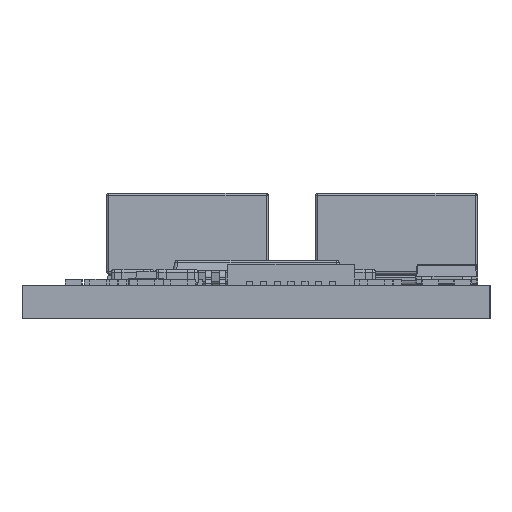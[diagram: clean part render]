
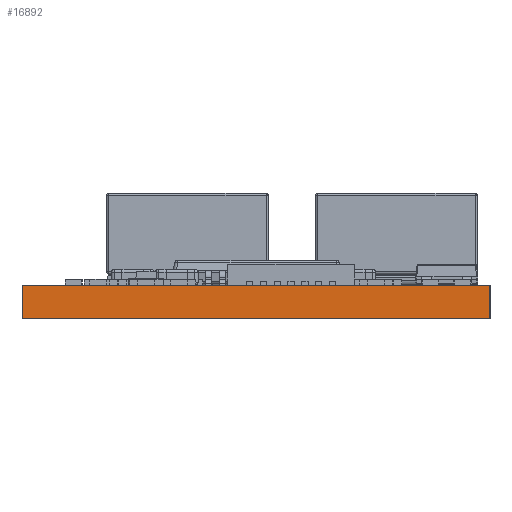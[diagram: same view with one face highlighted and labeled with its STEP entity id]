
A CAD part, left-side view. The second image highlights one B-rep face of the part: STEP entity #16892.
In plain terms, the highlighted planar face has unit normal (-1, 0, 0).
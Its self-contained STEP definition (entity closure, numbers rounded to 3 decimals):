
#259 = PLANE('',#260);
#260 = AXIS2_PLACEMENT_3D('',#261,#262,#263);
#261 = CARTESIAN_POINT('',(39.8,22.,1.556));
#262 = DIRECTION('',(0.,0.,-1.));
#263 = DIRECTION('',(-1.,0.,0.));
#313 = PLANE('',#314);
#314 = AXIS2_PLACEMENT_3D('',#315,#316,#317);
#315 = CARTESIAN_POINT('',(39.8,22.,0.));
#316 = DIRECTION('',(0.,0.,-1.));
#317 = DIRECTION('',(-1.,0.,0.));
#16784 = PLANE('',#16785);
#16785 = AXIS2_PLACEMENT_3D('',#16786,#16787,#16788);
#16786 = CARTESIAN_POINT('',(14.36,22.,0.));
#16787 = DIRECTION('',(0.,-1.,0.));
#16788 = DIRECTION('',(-1.,0.,0.));
#16822 = VERTEX_POINT('',#16823);
#16823 = CARTESIAN_POINT('',(0.,22.,1.556));
#16844 = EDGE_CURVE('',#16845,#16822,#16847,.T.);
#16845 = VERTEX_POINT('',#16846);
#16846 = CARTESIAN_POINT('',(0.,22.,0.));
#16847 = SURFACE_CURVE('',#16848,(#16852,#16859),.PCURVE_S1.);
#16848 = LINE('',#16849,#16850);
#16849 = CARTESIAN_POINT('',(0.,22.,0.));
#16850 = VECTOR('',#16851,1.);
#16851 = DIRECTION('',(0.,0.,1.));
#16852 = PCURVE('',#16784,#16853);
#16853 = DEFINITIONAL_REPRESENTATION('',(#16854),#16858);
#16854 = LINE('',#16855,#16856);
#16855 = CARTESIAN_POINT('',(14.36,0.));
#16856 = VECTOR('',#16857,1.);
#16857 = DIRECTION('',(0.,-1.));
#16858 = ( GEOMETRIC_REPRESENTATION_CONTEXT(2) 
PARAMETRIC_REPRESENTATION_CONTEXT() REPRESENTATION_CONTEXT('2D SPACE',''
  ) );
#16859 = PCURVE('',#16860,#16865);
#16860 = PLANE('',#16861);
#16861 = AXIS2_PLACEMENT_3D('',#16862,#16863,#16864);
#16862 = CARTESIAN_POINT('',(0.,22.,0.));
#16863 = DIRECTION('',(1.,0.,0.));
#16864 = DIRECTION('',(0.,-1.,0.));
#16865 = DEFINITIONAL_REPRESENTATION('',(#16866),#16870);
#16866 = LINE('',#16867,#16868);
#16867 = CARTESIAN_POINT('',(0.,0.));
#16868 = VECTOR('',#16869,1.);
#16869 = DIRECTION('',(0.,-1.));
#16870 = ( GEOMETRIC_REPRESENTATION_CONTEXT(2) 
PARAMETRIC_REPRESENTATION_CONTEXT() REPRESENTATION_CONTEXT('2D SPACE',''
  ) );
#16892 = ADVANCED_FACE('',(#16893),#16860,.F.);
#16893 = FACE_BOUND('',#16894,.F.);
#16894 = EDGE_LOOP('',(#16895,#16896,#16919,#16947));
#16895 = ORIENTED_EDGE('',*,*,#16844,.T.);
#16896 = ORIENTED_EDGE('',*,*,#16897,.T.);
#16897 = EDGE_CURVE('',#16822,#16898,#16900,.T.);
#16898 = VERTEX_POINT('',#16899);
#16899 = CARTESIAN_POINT('',(0.,0.,1.556));
#16900 = SURFACE_CURVE('',#16901,(#16905,#16912),.PCURVE_S1.);
#16901 = LINE('',#16902,#16903);
#16902 = CARTESIAN_POINT('',(0.,22.,1.556));
#16903 = VECTOR('',#16904,1.);
#16904 = DIRECTION('',(0.,-1.,0.));
#16905 = PCURVE('',#16860,#16906);
#16906 = DEFINITIONAL_REPRESENTATION('',(#16907),#16911);
#16907 = LINE('',#16908,#16909);
#16908 = CARTESIAN_POINT('',(0.,-1.556));
#16909 = VECTOR('',#16910,1.);
#16910 = DIRECTION('',(1.,0.));
#16911 = ( GEOMETRIC_REPRESENTATION_CONTEXT(2) 
PARAMETRIC_REPRESENTATION_CONTEXT() REPRESENTATION_CONTEXT('2D SPACE',''
  ) );
#16912 = PCURVE('',#259,#16913);
#16913 = DEFINITIONAL_REPRESENTATION('',(#16914),#16918);
#16914 = LINE('',#16915,#16916);
#16915 = CARTESIAN_POINT('',(39.8,0.));
#16916 = VECTOR('',#16917,1.);
#16917 = DIRECTION('',(0.,-1.));
#16918 = ( GEOMETRIC_REPRESENTATION_CONTEXT(2) 
PARAMETRIC_REPRESENTATION_CONTEXT() REPRESENTATION_CONTEXT('2D SPACE',''
  ) );
#16919 = ORIENTED_EDGE('',*,*,#16920,.F.);
#16920 = EDGE_CURVE('',#16921,#16898,#16923,.T.);
#16921 = VERTEX_POINT('',#16922);
#16922 = CARTESIAN_POINT('',(0.,0.,0.));
#16923 = SURFACE_CURVE('',#16924,(#16928,#16935),.PCURVE_S1.);
#16924 = LINE('',#16925,#16926);
#16925 = CARTESIAN_POINT('',(0.,0.,0.));
#16926 = VECTOR('',#16927,1.);
#16927 = DIRECTION('',(0.,0.,1.));
#16928 = PCURVE('',#16860,#16929);
#16929 = DEFINITIONAL_REPRESENTATION('',(#16930),#16934);
#16930 = LINE('',#16931,#16932);
#16931 = CARTESIAN_POINT('',(22.,0.));
#16932 = VECTOR('',#16933,1.);
#16933 = DIRECTION('',(0.,-1.));
#16934 = ( GEOMETRIC_REPRESENTATION_CONTEXT(2) 
PARAMETRIC_REPRESENTATION_CONTEXT() REPRESENTATION_CONTEXT('2D SPACE',''
  ) );
#16935 = PCURVE('',#16936,#16941);
#16936 = PLANE('',#16937);
#16937 = AXIS2_PLACEMENT_3D('',#16938,#16939,#16940);
#16938 = CARTESIAN_POINT('',(0.,0.,0.));
#16939 = DIRECTION('',(0.,1.,0.));
#16940 = DIRECTION('',(1.,0.,0.));
#16941 = DEFINITIONAL_REPRESENTATION('',(#16942),#16946);
#16942 = LINE('',#16943,#16944);
#16943 = CARTESIAN_POINT('',(0.,0.));
#16944 = VECTOR('',#16945,1.);
#16945 = DIRECTION('',(0.,-1.));
#16946 = ( GEOMETRIC_REPRESENTATION_CONTEXT(2) 
PARAMETRIC_REPRESENTATION_CONTEXT() REPRESENTATION_CONTEXT('2D SPACE',''
  ) );
#16947 = ORIENTED_EDGE('',*,*,#16948,.F.);
#16948 = EDGE_CURVE('',#16845,#16921,#16949,.T.);
#16949 = SURFACE_CURVE('',#16950,(#16954,#16961),.PCURVE_S1.);
#16950 = LINE('',#16951,#16952);
#16951 = CARTESIAN_POINT('',(0.,22.,0.));
#16952 = VECTOR('',#16953,1.);
#16953 = DIRECTION('',(0.,-1.,0.));
#16954 = PCURVE('',#16860,#16955);
#16955 = DEFINITIONAL_REPRESENTATION('',(#16956),#16960);
#16956 = LINE('',#16957,#16958);
#16957 = CARTESIAN_POINT('',(0.,0.));
#16958 = VECTOR('',#16959,1.);
#16959 = DIRECTION('',(1.,0.));
#16960 = ( GEOMETRIC_REPRESENTATION_CONTEXT(2) 
PARAMETRIC_REPRESENTATION_CONTEXT() REPRESENTATION_CONTEXT('2D SPACE',''
  ) );
#16961 = PCURVE('',#313,#16962);
#16962 = DEFINITIONAL_REPRESENTATION('',(#16963),#16967);
#16963 = LINE('',#16964,#16965);
#16964 = CARTESIAN_POINT('',(39.8,0.));
#16965 = VECTOR('',#16966,1.);
#16966 = DIRECTION('',(0.,-1.));
#16967 = ( GEOMETRIC_REPRESENTATION_CONTEXT(2) 
PARAMETRIC_REPRESENTATION_CONTEXT() REPRESENTATION_CONTEXT('2D SPACE',''
  ) );
